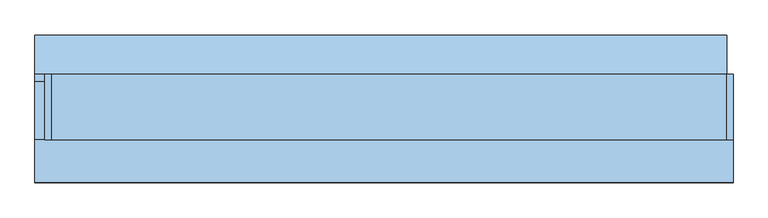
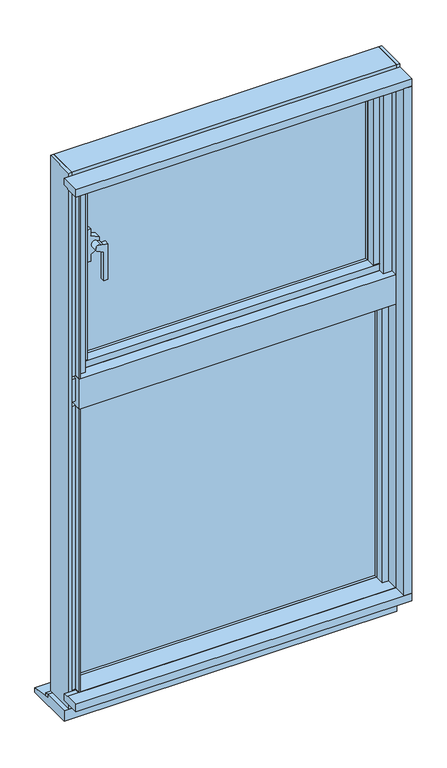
"""IFC4 building model written with IfcOpenShell, lengths in millimetres: window geometry, FNSⅡ100R_個別防火_RC枠_段窓 : たてすべりだし/FIX."""

from ifc_helpers import new_model, si_unit, frame, origin, place, context, project, spatial, polyline, circle_curve, outline, extrude, faceted_brep, source, transform, mapped, element, save
from ifc_brep_helpers import plane_surface, cylinder_surface, advanced_brep


def window_815922b5(model_context):
    return source(origin(), model_context, "Body", "SolidModel", [
        advanced_brep(
        [(-432.2217924, -43.25, 2340.1128987), (-422.5780089, -43.25, 2359.8870044), (-422.5780089, -18.75, 2359.8870044), (-432.2217924, -18.75, 2340.1128987), (-413.0, -43.25, 2330.7385568), (-413.0, -18.75, 2330.7385568), (-413.0, -28.273, 2330.7385568), (-413.0, -18.75, 2355.2157929), (-413.0, -28.273, 2355.2157929), (-413.0, -43.25, 2235.0), (-399.9, -43.25, 2235.0), (-399.9, -43.25, 2355.1670227), (-413.0, -43.25, 2355.1670227), (-399.9, -28.273, 2355.1670227), (-399.9, -28.273, 2235.0), (-413.0, -28.273, 2235.0)],
        [
            (0, 1, circle_curve(frame((-427.3999338, -43.25, 2349.9999677), z_axis=(0.0, 1.0, 0.0), x_axis=(1.0, 0.0, 0.0)), 11.0002024)),
            (1, 2),
            (2, 3, circle_curve(frame((-427.3999338, -18.75, 2349.9999677), z_axis=(0.0, -1.0, 0.0), x_axis=(1.0, 0.0, 0.0)), 11.0002024)),
            (3, 0),
            (4, 0),
            (3, 5),
            (5, 6),
            (6, 4),
            (5, 7),
            (7, 8),
            (8, 6),
            (4, 9),
            (9, 10),
            (10, 11),
            (11, 12),
            (12, 1),
            (2, 7),
            (12, 8),
            (13, 14),
            (14, 15),
            (15, 6),
            (8, 13),
            (15, 9),
            (14, 10),
            (13, 11),
        ],
        [
            cylinder_surface(frame((-427.3999338, -18.75, 2349.9999677), z_axis=(0.0, -1.0, 0.0), x_axis=(1.0, 0.0, 0.0)), 11.0002024),
            plane_surface(frame((-432.2217924, -43.25, 2340.1128987), z_axis=(-0.4383427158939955, 0.0, -0.8988079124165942), x_axis=(0.0, 1.0, 0.0))),
            plane_surface(frame((-413.0, -43.25, 2330.7385568), z_axis=(1.0, 0.0, 0.0), x_axis=(0.0, 1.0, 0.0))),
            plane_surface(frame((-416.3997314, -43.25, 2349.9999677), z_axis=(0.0, -1.0, 0.0), x_axis=(0.0, 0.0, 1.0))),
            plane_surface(frame((-416.3997314, -18.75, 2349.9999677), z_axis=(0.0, 1.0, 0.0), x_axis=(0.0, 0.0, -1.0))),
            plane_surface(frame((-413.0, -43.25, 2355.2157929), z_axis=(0.43834873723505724, 0.0, 0.8988049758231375), x_axis=(0.0, 1.0, 0.0))),
            plane_surface(frame((-412.9, -28.273, 2355.1670227), z_axis=(0.0, 1.0, 0.0), x_axis=(1.0, 0.0, 0.0))),
            plane_surface(frame((-413.0, -43.25, 2355.1670227), z_axis=(-1.0, 0.0, 0.0), x_axis=(0.0, 1.0, 0.0))),
            plane_surface(frame((-413.0, -43.25, 2235.0), z_axis=(0.0, 0.0, -1.0), x_axis=(0.0, 1.0, 0.0))),
            plane_surface(frame((-399.9, -43.25, 2235.0), z_axis=(1.0, 0.0, 0.0), x_axis=(0.0, 1.0, 0.0))),
            plane_surface(frame((-399.9, -43.25, 2355.1670227), z_axis=(0.0, 0.0, 1.0), x_axis=(0.0, 1.0, 0.0))),
        ],
        [
            (0, [[1, 2, 3, 4]]),
            (1, [[5, -4, 6, 7, 8]]),
            (2, [[9, 10, 11, -7]]),
            (3, [[-1, -5, 12, 13, 14, 15, 16]]),
            (4, [[17, -9, -6, -3]]),
            (5, [[-16, 18, -10, -17, -2]]),
            (6, [[19, 20, 21, -11, 22]]),
            (7, [[23, -12, -8, -21]]),
            (8, [[-13, -23, -20, 24]]),
            (9, [[-14, -24, -19, 25]]),
            (10, [[-15, -25, -22, -18]]),
        ],
    ),
        extrude(outline(polyline([(2404.0, -453.0), (2296.0, -453.0), (2296.0, -440.0), (2318.8197636, -440.0), (2332.0649514, -413.0), (2367.9350486, -413.0), (2381.1802364, -440.0), (2404.0, -440.0), (2404.0, -453.0)])), frame((0.0, -18.75, 0.0), z_axis=(0.0, 1.0, 0.0), x_axis=(0.0, 0.0, 1.0)), (0.0, 0.0, 1.0), 21.0),
        extrude(outline(polyline([(-453.0, 25.0), (453.0, 25.0), (453.0, 19.0), (-453.0, 19.0), (-453.0, 25.0)])), frame((0.0, 0.0, 1969.0), z_axis=(0.0, 0.0, 1.0), x_axis=(1.0, 0.0, 0.0)), (0.0, 0.0, 1.0), 585.0),
        extrude(outline(polyline([(-453.0, 43.0), (453.0, 43.0), (453.0, 37.0), (-453.0, 37.0), (-453.0, 43.0)])), frame((0.0, 0.0, 1969.0), z_axis=(0.0, 0.0, 1.0), x_axis=(1.0, 0.0, 0.0)), (0.0, 0.0, 1.0), 585.0),
        faceted_brep([(-486.0, -17.0, 1929.0), (-472.2, -17.0, 1929.0), (-472.2, -17.0, 2584.0), (-486.0, -17.0, 2584.0), (-486.0, 50.5, 1929.0), (-486.0, 48.5, 2584.0), (-486.0, 48.5, 2600.0), (-486.0, 50.5, 2600.0), (-472.2, 48.5, 2584.0), (-472.2, 48.5, 2600.0), (-500.0, 50.5, 1929.0), (-500.0, 55.0, 1929.0), (-472.2, 55.0, 1929.0), (-500.0, 50.5, 2600.0), (-500.0, 55.0, 2600.0), (-472.2, 55.0, 2600.0), (-472.2, 55.0, 2554.0), (-453.0, 55.0, 2554.0), (-453.0, 55.0, 1969.0), (-472.2, 55.0, 1969.0), (-472.2, 6.0, 1969.0), (-472.2, 6.0, 2554.0), (-453.0, 6.0, 2554.0), (-453.0, 6.0, 1969.0)], [[[0, 1, 2, 3]], [[4, 0, 3, 5, 6, 7]], [[5, 8, 9, 6]], [[10, 11, 12, 1, 0, 4]], [[13, 14, 11, 10]], [[14, 15, 16, 17, 18, 19, 12, 11]], [[1, 12, 19, 20, 21, 16, 15, 9, 8, 2]], [[7, 13, 10, 4]], [[17, 22, 23, 18]], [[19, 18, 23, 20]], [[22, 21, 20, 23]], [[13, 7, 6, 9, 15, 14]], [[8, 5, 3, 2]], [[21, 22, 17, 16]]]),
        faceted_brep([(472.2, 55.0, 2600.0), (500.0, 55.0, 2600.0), (500.0, 55.0, 1929.0), (472.2, 55.0, 1929.0), (472.2, 55.0, 1969.0), (453.0, 55.0, 1969.0), (453.0, 55.0, 2554.0), (472.2, 55.0, 2554.0), (472.2, 48.5, 2584.0), (486.0, 48.5, 2584.0), (486.0, 48.5, 2600.0), (472.2, 48.5, 2600.0), (500.0, 50.5, 1929.0), (486.0, 50.5, 1929.0), (486.0, -17.0, 1929.0), (472.2, -17.0, 1929.0), (500.0, 50.5, 2600.0), (486.0, 50.5, 2600.0), (486.0, -17.0, 2584.0), (472.2, -17.0, 2584.0), (472.2, 6.0, 2554.0), (472.2, 6.0, 1969.0), (453.0, 6.0, 1969.0), (453.0, 6.0, 2554.0)], [[[0, 1, 2, 3, 4, 5, 6, 7]], [[8, 9, 10, 11]], [[12, 13, 14, 15, 3, 2]], [[16, 17, 13, 12]], [[14, 13, 17, 10, 9, 18]], [[15, 14, 18, 19]], [[3, 15, 19, 8, 11, 0, 7, 20, 21, 4]], [[1, 16, 12, 2]], [[21, 22, 5, 4]], [[23, 6, 5, 22]], [[20, 23, 22, 21]], [[16, 1, 0, 11, 10, 17]], [[9, 8, 19, 18]], [[7, 6, 23, 20]]]),
        extrude(outline(polyline([(-453.0, -22.5), (-472.2, -22.5), (-472.2, 6.0), (-453.0, 6.0), (-453.0, -22.5)])), frame((0.0, 0.0, 1972.0), z_axis=(0.0, 0.0, 1.0), x_axis=(1.0, 0.0, 0.0)), (0.0, 0.0, 1.0), 579.0),
        extrude(outline(polyline([(453.0, -22.5), (453.0, 6.0), (472.2, 6.0), (472.2, -22.5), (453.0, -22.5)])), frame((0.0, 0.0, 1972.0), z_axis=(0.0, 0.0, 1.0), x_axis=(1.0, 0.0, 0.0)), (0.0, 0.0, 1.0), 579.0),
        extrude(outline(polyline([(472.2, 6.0), (472.2, -25.0), (-472.2, -25.0), (-472.2, 6.0), (472.2, 6.0)])), frame((0.0, 0.0, 1950.0), z_axis=(0.0, 0.0, 1.0), x_axis=(1.0, 0.0, 0.0)), (0.0, 0.0, 1.0), 22.0),
        extrude(outline(polyline([(55.0, 1929.0), (-17.0, 1929.0), (-17.0, 1950.0), (6.0, 1950.0), (6.0, 1969.0), (55.0, 1969.0), (55.0, 1929.0)])), frame((-472.2, 0.0, 0.0), z_axis=(1.0, 0.0, 0.0), x_axis=(0.0, 1.0, 0.0)), (0.0, 0.0, 1.0), 944.4),
        extrude(outline(polyline([(55.0, 2600.0), (55.0, 2554.0), (6.0, 2554.0), (6.0, 2573.2), (-17.0, 2573.2), (-17.0, 2584.0), (48.5, 2584.0), (48.5, 2600.0), (55.0, 2600.0)])), frame((-472.2, 0.0, 0.0), z_axis=(1.0, 0.0, 0.0), x_axis=(0.0, 1.0, 0.0)), (0.0, 0.0, 1.0), 944.4),
        extrude(outline(polyline([(472.2, 6.0), (472.2, -25.0), (-472.2, -25.0), (-472.2, 6.0), (472.2, 6.0)])), frame((0.0, 0.0, 2551.0), z_axis=(0.0, 0.0, 1.0), x_axis=(1.0, 0.0, 0.0)), (0.0, 0.0, 1.0), 22.2),
        faceted_brep([(-515.0, 55.0, 2635.0), (-515.0, -45.0, 2635.0), (-515.0, -45.0, 840.0), (-515.0, 55.0, 840.0), (-515.0, 55.0, 1900.0), (-515.0, -26.0, 1900.0), (-515.0, -26.0, 2600.0), (-515.0, 55.0, 2600.0), (-525.0, -45.0, 2635.0), (-525.0, -45.0, 840.0), (-500.0, 55.0, 2600.0), (-500.0, -21.0, 2600.0), (-500.0, -21.0, 1900.0), (-500.0, 55.0, 1900.0), (-478.0, -21.0, 2600.0), (-478.0, -21.0, 1900.0), (-478.0, -26.0, 2600.0), (-478.0, -26.0, 1900.0), (-525.0, 55.0, 2635.0), (-525.0, 55.0, 840.0)], [[[0, 1, 2, 3, 4, 5, 6, 7]], [[1, 8, 9, 2]], [[10, 11, 12, 13]], [[11, 14, 15, 12]], [[14, 16, 17, 15]], [[18, 8, 1, 0]], [[19, 3, 2, 9]], [[18, 0, 7, 10, 13, 4, 3, 19]], [[8, 18, 19, 9]], [[13, 12, 15, 17, 5, 4]], [[16, 6, 5, 17]], [[10, 7, 6, 16, 14, 11]]]),
        faceted_brep([(525.0, -45.0, 2635.0), (515.0, -45.0, 2635.0), (515.0, -45.0, 840.0), (525.0, -45.0, 840.0), (478.0, -26.0, 2600.0), (478.0, -21.0, 2600.0), (478.0, -21.0, 1900.0), (478.0, -26.0, 1900.0), (525.0, 55.0, 2635.0), (515.0, 55.0, 2635.0), (515.0, 55.0, 840.0), (525.0, 55.0, 840.0), (515.0, 55.0, 2600.0), (515.0, -26.0, 2600.0), (515.0, -26.0, 1900.0), (515.0, 55.0, 1900.0), (500.0, 55.0, 1900.0), (500.0, 55.0, 2600.0), (500.0, -21.0, 1900.0), (500.0, -21.0, 2600.0)], [[[0, 1, 2, 3]], [[4, 5, 6, 7]], [[1, 0, 8, 9]], [[2, 10, 11, 3]], [[1, 9, 12, 13, 14, 15, 10, 2]], [[9, 8, 11, 10, 15, 16, 17, 12]], [[8, 0, 3, 11]], [[18, 16, 15, 14, 7, 6]], [[19, 17, 16, 18]], [[13, 4, 7, 14]], [[5, 19, 18, 6]], [[19, 5, 4, 13, 12, 17]]]),
        extrude(outline(polyline([(500.0, -65.0), (500.0, -45.0), (472.0, -45.0), (472.0, -26.0), (515.0, -26.0), (515.0, -45.0), (503.0, -45.0), (503.0, -65.0), (500.0, -65.0)])), frame((0.0, 0.0, 1950.0), z_axis=(0.0, 0.0, 1.0), x_axis=(1.0, 0.0, 0.0)), (0.0, 0.0, 1.0), 653.0),
        extrude(outline(polyline([(-515.0, -45.0), (-515.0, -26.0), (-472.0, -26.0), (-472.0, -45.0), (-500.0, -45.0), (-500.0, -65.0), (-503.0, -65.0), (-503.0, -45.0), (-515.0, -45.0)])), frame((0.0, 0.0, 1950.0), z_axis=(0.0, 0.0, 1.0), x_axis=(1.0, 0.0, 0.0)), (0.0, 0.0, 1.0), 653.0),
        extrude(outline(polyline([(-26.0, 2573.0), (-47.5, 2573.0), (-47.5, 2600.0), (-65.0, 2600.0), (-65.0, 2603.0), (-45.0, 2603.0), (-45.0, 2612.5), (-26.0, 2612.5), (-26.0, 2573.0)])), frame((-500.0, 0.0, 0.0), z_axis=(1.0, 0.0, 0.0), x_axis=(0.0, 1.0, 0.0)), (0.0, 0.0, 1.0), 1000.0),
        extrude(outline(polyline([(55.0, 2600.0), (-21.0, 2600.0), (-21.0, 2579.0), (-26.0, 2579.0), (-26.0, 2612.5), (-45.0, 2612.5), (-45.0, 2635.0), (55.0, 2635.0), (55.0, 2600.0)])), frame((-515.0, 0.0, 0.0), z_axis=(1.0, 0.0, 0.0), x_axis=(0.0, 1.0, 0.0)), (0.0, 0.0, 1.0), 1030.0),
        extrude(outline(polyline([(-45.0, 1940.0), (-45.0, 1865.0), (5.0, 1865.0), (5.0, 1850.0), (-65.0, 1850.0), (-65.0, 1950.0), (-26.0, 1950.0), (-26.0, 1940.0), (-45.0, 1940.0)])), frame((-503.0, 0.0, 0.0), z_axis=(1.0, 0.0, 0.0), x_axis=(0.0, 1.0, 0.0)), (0.0, 0.0, 1.0), 1006.0),
        extrude(outline(polyline([(55.0, 1850.0), (5.0, 1850.0), (5.0, 1865.0), (-45.0, 1865.0), (-45.0, 1940.0), (-21.0, 1940.0), (-21.0, 1915.0), (44.0, 1915.0), (44.0, 1900.0), (55.0, 1900.0), (55.0, 1850.0)])), frame((-515.0, 0.0, 0.0), z_axis=(1.0, 0.0, 0.0), x_axis=(0.0, 1.0, 0.0)), (0.0, 0.0, 1.0), 1030.0),
        extrude(outline(polyline([(-480.0, 20.6), (480.0, 20.6), (480.0, 14.6), (-480.0, 14.6), (-480.0, 20.6)])), frame((0.0, 0.0, 900.0), z_axis=(0.0, 0.0, 1.0), x_axis=(1.0, 0.0, 0.0)), (0.0, 0.0, 1.0), 950.0),
        extrude(outline(polyline([(-480.0, 38.6), (480.0, 38.6), (480.0, 32.6), (-480.0, 32.6), (-480.0, 38.6)])), frame((0.0, 0.0, 900.0), z_axis=(0.0, 0.0, 1.0), x_axis=(1.0, 0.0, 0.0)), (0.0, 0.0, 1.0), 950.0),
        extrude(outline(polyline([(-480.0, 55.0), (-480.0, 5.0), (-515.0, 5.0), (-515.0, 55.0), (-480.0, 55.0)])), frame((0.0, 0.0, 900.0), z_axis=(0.0, 0.0, 1.0), x_axis=(1.0, 0.0, 0.0)), (0.0, 0.0, 1.0), 950.0),
        extrude(outline(polyline([(515.0, 55.0), (515.0, 5.0), (480.0, 5.0), (480.0, 55.0), (515.0, 55.0)])), frame((0.0, 0.0, 900.0), z_axis=(0.0, 0.0, 1.0), x_axis=(1.0, 0.0, 0.0)), (0.0, 0.0, 1.0), 950.0),
        extrude(outline(polyline([(500.0, -65.0), (500.0, -26.5), (480.0, -26.5), (480.0, 5.0), (515.0, 5.0), (515.0, -45.0), (503.0, -45.0), (503.0, -65.0), (500.0, -65.0)])), frame((0.0, 0.0, 900.0), z_axis=(0.0, 0.0, 1.0), x_axis=(1.0, 0.0, 0.0)), (0.0, 0.0, 1.0), 950.0),
        extrude(outline(polyline([(-515.0, -45.0), (-515.0, 5.0), (-480.0, 5.0), (-480.0, -26.5), (-500.0, -26.5), (-500.0, -65.0), (-503.0, -65.0), (-503.0, -45.0), (-515.0, -45.0)])), frame((0.0, 0.0, 900.0), z_axis=(0.0, 0.0, 1.0), x_axis=(1.0, 0.0, 0.0)), (0.0, 0.0, 1.0), 950.0),
        extrude(outline(polyline([(-45.0, 884.0), (-45.0, 897.0), (-65.0, 897.0), (-65.0, 900.0), (5.0, 900.0), (5.0, 884.0), (-45.0, 884.0)])), frame((-503.0, 0.0, 0.0), z_axis=(1.0, 0.0, 0.0), x_axis=(0.0, 1.0, 0.0)), (0.0, 0.0, 1.0), 1006.0),
        extrude(outline(polyline([(55.0, 840.0), (-45.0, 840.0), (-45.0, 884.0), (5.0, 884.0), (5.0, 900.0), (55.0, 900.0), (55.0, 870.0), (36.0, 870.0), (36.0, 850.0), (55.0, 850.0), (55.0, 840.0)])), frame((-515.0, 0.0, 0.0), z_axis=(1.0, 0.0, 0.0), x_axis=(0.0, 1.0, 0.0)), (0.0, 0.0, 1.0), 1030.0),
        extrude(outline(polyline([(-110.0, 900.0), (-65.0, 900.0), (-65.0, 897.0), (-45.0, 897.0), (-45.0, 875.0), (-110.0, 875.0), (-110.0, 900.0)])), frame((-540.0, 0.0, 0.0), z_axis=(1.0, 0.0, 0.0), x_axis=(0.0, 1.0, 0.0)), (0.0, 0.0, 1.0), 1065.0),
        extrude(outline(polyline([(45.0, 840.0), (55.0, 840.0), (55.0, 828.4285714), (45.0, 830.0), (45.0, 840.0)])), frame((-540.0, 0.0, 0.0), z_axis=(1.0, 0.0, 0.0), x_axis=(0.0, 1.0, 0.0)), (0.0, 0.0, 1.0), 1055.0),
        extrude(outline(polyline([(-45.0, 804.0), (-45.0, 840.0), (45.0, 840.0), (45.0, 830.0), (115.0, 819.0), (115.0, 804.0), (-45.0, 804.0)])), frame((-540.0, 0.0, 0.0), z_axis=(1.0, 0.0, 0.0), x_axis=(0.0, 1.0, 0.0)), (0.0, 0.0, 1.0), 1055.0),
        extrude(outline(polyline([(503.0, -45.0), (525.0, -45.0), (525.0, -110.0), (500.0, -110.0), (500.0, -65.0), (503.0, -65.0), (503.0, -45.0)])), frame((0.0, 0.0, 900.0), z_axis=(0.0, 0.0, 1.0), x_axis=(1.0, 0.0, 0.0)), (0.0, 0.0, 1.0), 1700.0),
        extrude(outline(polyline([(-110.0, 2625.0), (-45.0, 2625.0), (-45.0, 2603.0), (-65.0, 2603.0), (-65.0, 2600.0), (-110.0, 2600.0), (-110.0, 2625.0)])), frame((-540.0, 0.0, 0.0), z_axis=(1.0, 0.0, 0.0), x_axis=(0.0, 1.0, 0.0)), (0.0, 0.0, 1.0), 1065.0),
    ])


if __name__ == "__main__":
    model = new_model("IFC4")
    model_context = context("Model", 3, world=origin())
    ifc_project = project(units=[si_unit("LENGTHUNIT", "METRE", prefix="MILLI")], contexts=[model_context])
    site = spatial("IfcSite", under=ifc_project)
    building = spatial("IfcBuilding", under=site)
    placement = place(None, origin())
    window_shape = window_815922b5(model_context)
    element("IfcWindow", 1, ObjectType="FNSⅡ100R_個別防火_RC枠_段窓 : たてすべりだし/FIX", at=placement, inside=building, context=model_context, shape_type="MappedRepresentation", body=[
        mapped(window_shape, transform((0.0, 0.0, 0.0), x_axis=(1.0, 0.0, 0.0), y_axis=(0.0, 1.0, 0.0), z_axis=(0.0, 0.0, 1.0))),
    ])
    save(model, "model.ifc")
